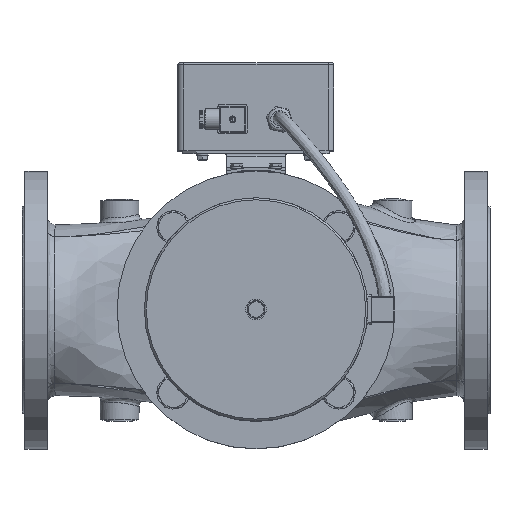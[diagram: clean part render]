
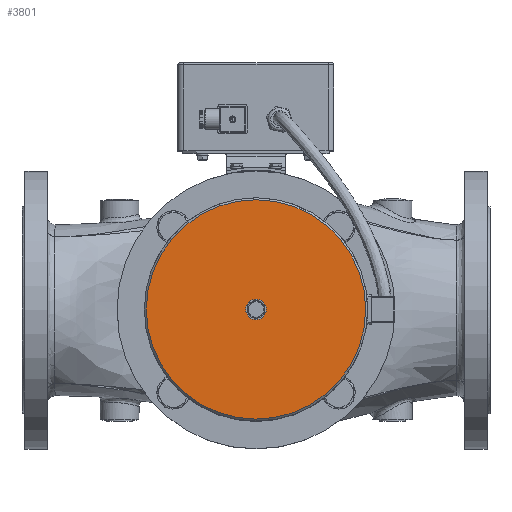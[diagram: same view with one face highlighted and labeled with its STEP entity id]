
A CAD part, top view. The second image highlights one B-rep face of the part: STEP entity #3801.
In plain terms, the highlighted planar face has unit normal (0, 0, 1).
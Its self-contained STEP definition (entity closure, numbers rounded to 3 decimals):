
#3651=CARTESIAN_POINT('',(0.,-10.5,474.));
#3652=VERTEX_POINT('',#3651);
#3653=CARTESIAN_POINT('',(0.,0.,474.));
#3654=DIRECTION('',(0.0,0.0,-1.0));
#3655=DIRECTION('',(0.0,1.0,0.0));
#3656=AXIS2_PLACEMENT_3D('',#3653,#3654,#3655);
#3657=CIRCLE('',#3656,10.5);
#3658=EDGE_CURVE('',#3652,#3652,#3657,.T.);
#3782=CARTESIAN_POINT('',(0.,0.,474.));
#3783=DIRECTION('',(0.0,0.0,-1.0));
#3784=DIRECTION('',(-0.646,-0.764,0.0));
#3785=AXIS2_PLACEMENT_3D('',#3782,#3783,#3784);
#3786=PLANE('',#3785);
#3787=CARTESIAN_POINT('',(72.649,85.898,474.));
#3788=VERTEX_POINT('',#3787);
#3789=CARTESIAN_POINT('',(0.,0.,474.));
#3790=DIRECTION('',(0.,0.,-1.0));
#3791=DIRECTION('',(-0.646,-0.764,0.));
#3792=AXIS2_PLACEMENT_3D('',#3789,#3790,#3791);
#3793=CIRCLE('',#3792,112.5);
#3794=EDGE_CURVE('',#3788,#3788,#3793,.T.);
#3795=ORIENTED_EDGE('',*,*,#3794,.F.);
#3796=EDGE_LOOP('',(#3795));
#3797=FACE_OUTER_BOUND('',#3796,.T.);
#3798=ORIENTED_EDGE('',*,*,#3658,.T.);
#3799=EDGE_LOOP('',(#3798));
#3800=FACE_BOUND('',#3799,.T.);
#3801=ADVANCED_FACE('',(#3797,#3800),#3786,.F.);
